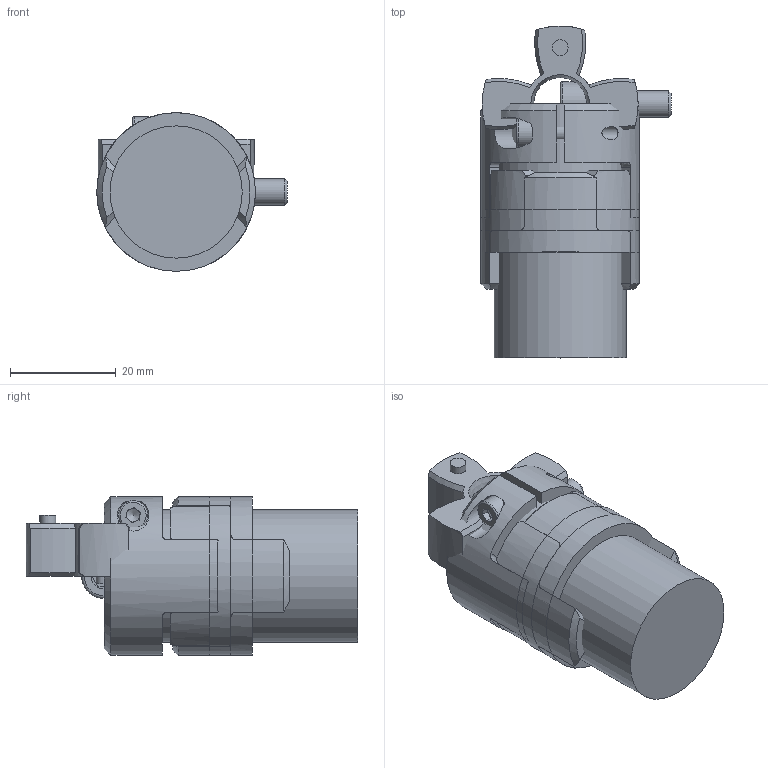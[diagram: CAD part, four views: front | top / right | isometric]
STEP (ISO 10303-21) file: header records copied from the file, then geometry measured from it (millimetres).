
FILE_DESCRIPTION( ( 'Unknown' ), '1' );
FILE_NAME( 'R:/KBE Fertigungszeichnungen/KBE4/HP/KBE4-14.stp', 'Unknown', ( 'Unknown' ), ( 'Unknown' ), 'XStep 1.0', 'Unknown', ' ' );
FILE_SCHEMA( ( 'automotive_design' ) );
Length unit declared in the file: millimetre
Products named in the file (6): Assem1; KBE 2 - 14_Nabe; KBE 4 - 14_Nabe; Zahnkranz_14 - D10; Socket Head Cap Screw_DIN_DIN 912 M3 x 10 --- 10C_0; Socket Head Cap Screw_DIN_DIN 912 M5 x 16 --- 16N_1
Bounding box: 36 x 62.75 x 30 mm (x, y, z)
Volume: 51593.3 mm3; surface area: 21256.3 mm2
Topology: 10 solids, 10 shells, 298 faces, 718 edges, 458 vertices
Faces by surface type: plane 108, cylinder 86, cone 78, torus 26
Full cylindrical faces by diameter (mm): 2.5 x2, 3 x10, 3.5 x2, 5 x2, 5.5 x2, 8.5 x2, 10 x2, 12 x2, 15 x2, 25 x2, 30 x2
Entity records: 4766 total; most frequent: CARTESIAN_POINT 1116, DIRECTION 723, ORIENTED_EDGE 646, EDGE_CURVE 323, AXIS2_PLACEMENT_3D 315, VERTEX_POINT 220, EDGE_LOOP 189, FACE_OUTER_BOUND 168
